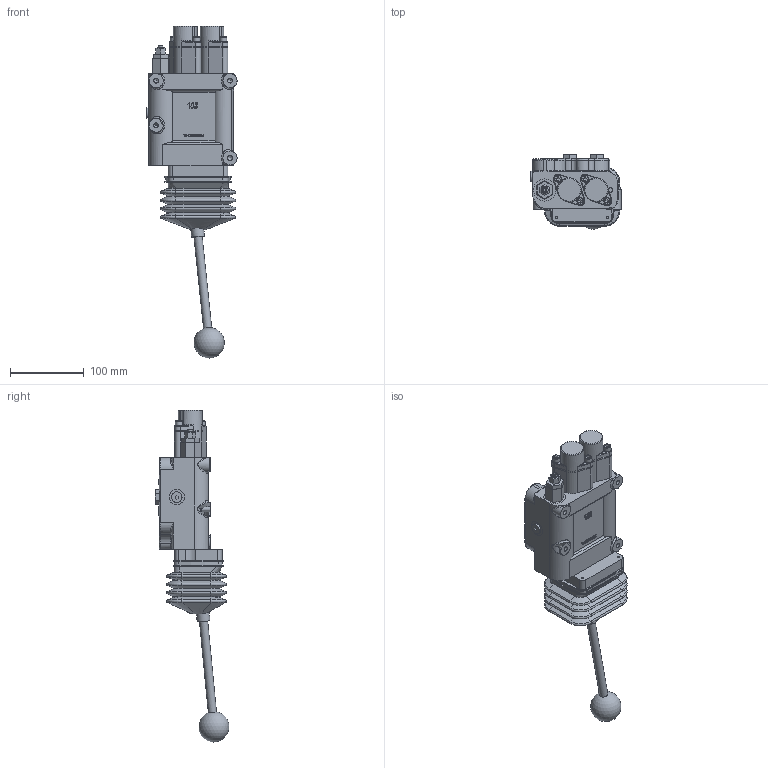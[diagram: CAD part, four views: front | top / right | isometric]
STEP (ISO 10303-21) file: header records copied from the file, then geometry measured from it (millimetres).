
FILE_DESCRIPTION((''),'2;1');
FILE_NAME('C:\Vault\Workspace\z_ShellModels\LV_LS30_RD25_RD41\LVT1RG5AC5_Shell.stp','2012-03-19T10:22:41',('PetersW'),(''),'Autodesk Inventor 2012','Autodesk Inventor 2012','');
FILE_SCHEMA(('AUTOMOTIVE_DESIGN { 1 0 10303 214 1 1 1 1 }'));
Length unit declared in the file: inch
Products named in the file (1): Part3
Bounding box: 122.03 x 100.19 x 449.51 mm (x, y, z)
Volume: 1320803 mm3; surface area: 204747.3 mm2
Topology: 1 solids, 25 shells, 1344 faces, 3270 edges, 2052 vertices
Faces by surface type: plane 648, cylinder 273, bspline 201, cone 118, torus 103, sphere 1
Full cylindrical faces by diameter (mm): 3.175 x2, 4.978 x10, 6.096 x1, 6.35 x6, 6.401 x6, 6.528 x1, 6.731 x12, 6.909 x3, 7.925 x3, 9.525 x4, 11.1 x2, 11.112 x1, 12.304 x3, 12.7 x3, 12.929 x4, 14.3 x1, 15.878 x2, 17.066 x3, 17.45 x1, 17.501 x3, 21.031 x1, 21.438 x2, 22.225 x1, 24.867 x6, 27.28 x4, 30.175 x2
Entity records: 43649 total; most frequent: CARTESIAN_POINT 13130, ORIENTED_EDGE 6088, DIRECTION 5568, EDGE_CURVE 3044, AXIS2_PLACEMENT_3D 1996, VERTEX_POINT 1985, EDGE_LOOP 1593, VECTOR 1576
